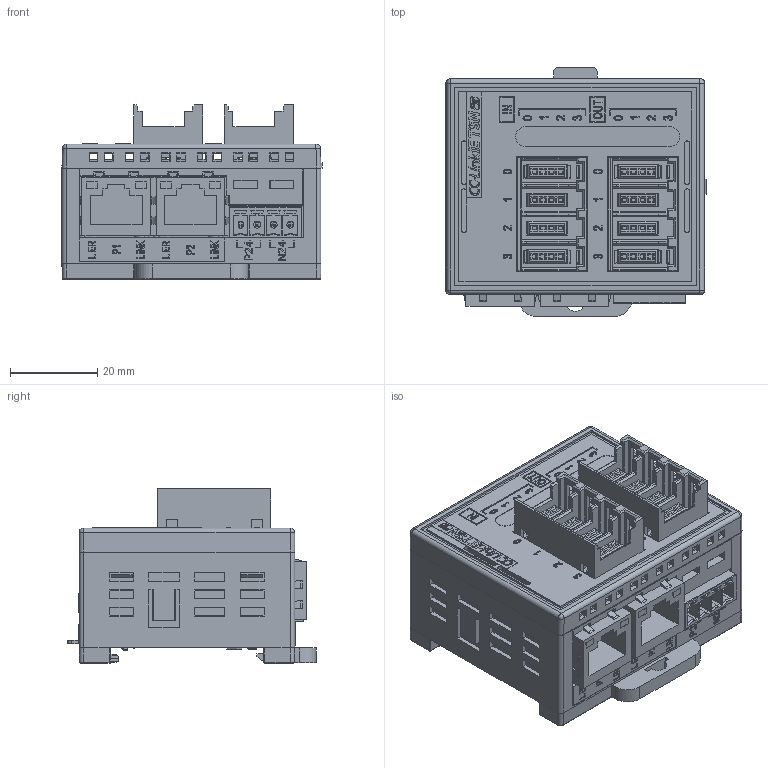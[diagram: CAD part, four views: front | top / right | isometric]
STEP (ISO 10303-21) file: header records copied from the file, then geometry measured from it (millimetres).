
FILE_DESCRIPTION((''),'2;1');
FILE_NAME('CTCEP44','2026-05-11T14:19:30',('gijyu181'),(''),'CREO PARAMETRIC BY PTC INC, 2018050','CREO PARAMETRIC BY PTC INC, 2018050','');
FILE_SCHEMA(('CONFIG_CONTROL_DESIGN','SHAPE_APPEARANCE_LAYERS_GROUPS'));
Products named in the file (1): CTCEP44
Bounding box: 59.75 x 57.15 x 40 mm (x, y, z)
Volume: 70222.8 mm3; surface area: 41030 mm2
Topology: 1 solids, 15 shells, 7466 faces, 21149 edges, 13995 vertices
Faces by surface type: plane 5786, cylinder 893, extrusion 673, sphere 44, torus 26, bspline 24, cone 20
Entity records: 303224 total; most frequent: CARTESIAN_POINT 52206, ORIENTED_EDGE 42270, DIRECTION 35492, EDGE_CURVE 21139, VECTOR 18188, LINE 17515, VERTEX_POINT 13995, PRESENTATION_STYLE_ASSIGNMENT 10989
